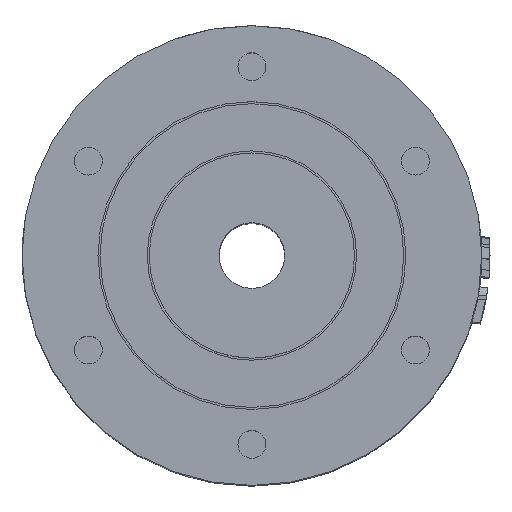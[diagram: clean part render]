
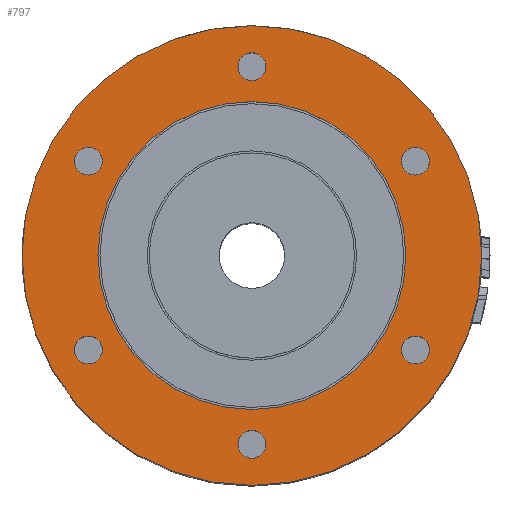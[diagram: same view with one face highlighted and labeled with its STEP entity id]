
A CAD part, top view. The second image highlights one B-rep face of the part: STEP entity #797.
In plain terms, the highlighted planar face has unit normal (0, 0, 1).
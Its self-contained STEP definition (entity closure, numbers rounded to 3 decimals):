
#147=FACE_BOUND('',#1673,.T.);
#148=FACE_BOUND('',#1674,.T.);
#149=FACE_BOUND('',#1675,.T.);
#150=FACE_BOUND('',#1676,.T.);
#151=FACE_BOUND('',#1677,.T.);
#152=FACE_BOUND('',#1678,.T.);
#153=FACE_BOUND('',#1679,.T.);
#154=FACE_BOUND('',#1680,.T.);
#338=CIRCLE('',#6749,28.);
#342=CIRCLE('',#6756,18.75);
#343=CIRCLE('',#6757,1.7);
#344=CIRCLE('',#6758,1.7);
#345=CIRCLE('',#6759,1.7);
#346=CIRCLE('',#6760,1.7);
#347=CIRCLE('',#6761,1.7);
#348=CIRCLE('',#6762,1.7);
#504=PLANE('',#6763);
#797=ADVANCED_FACE('',(#147,#148,#149,#150,#151,#152,#153,#154),#504,.F.);
#1673=EDGE_LOOP('',(#3673));
#1674=EDGE_LOOP('',(#3674));
#1675=EDGE_LOOP('',(#3675));
#1676=EDGE_LOOP('',(#3676));
#1677=EDGE_LOOP('',(#3677));
#1678=EDGE_LOOP('',(#3678));
#1679=EDGE_LOOP('',(#3679));
#1680=EDGE_LOOP('',(#3680));
#3673=ORIENTED_EDGE('',*,*,#5549,.T.);
#3674=ORIENTED_EDGE('',*,*,#5550,.T.);
#3675=ORIENTED_EDGE('',*,*,#5551,.T.);
#3676=ORIENTED_EDGE('',*,*,#5552,.T.);
#3677=ORIENTED_EDGE('',*,*,#5553,.T.);
#3678=ORIENTED_EDGE('',*,*,#5554,.T.);
#3679=ORIENTED_EDGE('',*,*,#5555,.T.);
#3680=ORIENTED_EDGE('',*,*,#5545,.F.);
#4682=VERTEX_POINT('',#14477);
#4686=VERTEX_POINT('',#14488);
#4687=VERTEX_POINT('',#14490);
#4688=VERTEX_POINT('',#14492);
#4689=VERTEX_POINT('',#14494);
#4690=VERTEX_POINT('',#14496);
#4691=VERTEX_POINT('',#14498);
#4692=VERTEX_POINT('',#14500);
#5545=EDGE_CURVE('',#4682,#4682,#338,.T.);
#5549=EDGE_CURVE('',#4686,#4686,#342,.T.);
#5550=EDGE_CURVE('',#4687,#4687,#343,.T.);
#5551=EDGE_CURVE('',#4688,#4688,#344,.T.);
#5552=EDGE_CURVE('',#4689,#4689,#345,.T.);
#5553=EDGE_CURVE('',#4690,#4690,#346,.T.);
#5554=EDGE_CURVE('',#4691,#4691,#347,.T.);
#5555=EDGE_CURVE('',#4692,#4692,#348,.T.);
#6749=AXIS2_PLACEMENT_3D('',#14476,#7727,#7728);
#6756=AXIS2_PLACEMENT_3D('',#14487,#7741,#7742);
#6757=AXIS2_PLACEMENT_3D('',#14489,#7743,#7744);
#6758=AXIS2_PLACEMENT_3D('',#14491,#7745,#7746);
#6759=AXIS2_PLACEMENT_3D('',#14493,#7747,#7748);
#6760=AXIS2_PLACEMENT_3D('',#14495,#7749,#7750);
#6761=AXIS2_PLACEMENT_3D('',#14497,#7751,#7752);
#6762=AXIS2_PLACEMENT_3D('',#14499,#7753,#7754);
#6763=AXIS2_PLACEMENT_3D('',#14501,#7755,#7756);
#7727=DIRECTION('',(0.,0.,-1.));
#7728=DIRECTION('',(-1.,0.,0.));
#7741=DIRECTION('',(0.,0.,-1.));
#7742=DIRECTION('',(-1.,0.,0.));
#7743=DIRECTION('',(0.,0.,-1.));
#7744=DIRECTION('',(-1.,0.,0.));
#7745=DIRECTION('',(0.,0.,-1.));
#7746=DIRECTION('',(-1.,0.,0.));
#7747=DIRECTION('',(0.,0.,-1.));
#7748=DIRECTION('',(-1.,0.,0.));
#7749=DIRECTION('',(0.,0.,-1.));
#7750=DIRECTION('',(-1.,0.,0.));
#7751=DIRECTION('',(0.,0.,-1.));
#7752=DIRECTION('',(-1.,0.,0.));
#7753=DIRECTION('',(0.,0.,-1.));
#7754=DIRECTION('',(-1.,0.,0.));
#7755=DIRECTION('',(0.,0.,-1.));
#7756=DIRECTION('',(-1.,0.,0.));
#14476=CARTESIAN_POINT('',(0.,0.,62.));
#14477=CARTESIAN_POINT('',(-28.,0.,62.));
#14487=CARTESIAN_POINT('',(0.,0.,62.));
#14488=CARTESIAN_POINT('',(-18.75,0.,62.));
#14489=CARTESIAN_POINT('',(-19.919,-11.5,62.));
#14490=CARTESIAN_POINT('',(-21.619,-11.5,62.));
#14491=CARTESIAN_POINT('',(0.,23.,62.));
#14492=CARTESIAN_POINT('',(-1.7,23.,62.));
#14493=CARTESIAN_POINT('',(0.,-23.,62.));
#14494=CARTESIAN_POINT('',(-1.7,-23.,62.));
#14495=CARTESIAN_POINT('',(19.919,-11.5,62.));
#14496=CARTESIAN_POINT('',(18.219,-11.5,62.));
#14497=CARTESIAN_POINT('',(-19.919,11.5,62.));
#14498=CARTESIAN_POINT('',(-21.619,11.5,62.));
#14499=CARTESIAN_POINT('',(19.919,11.5,62.));
#14500=CARTESIAN_POINT('',(18.219,11.5,62.));
#14501=CARTESIAN_POINT('',(0.,0.,62.));
